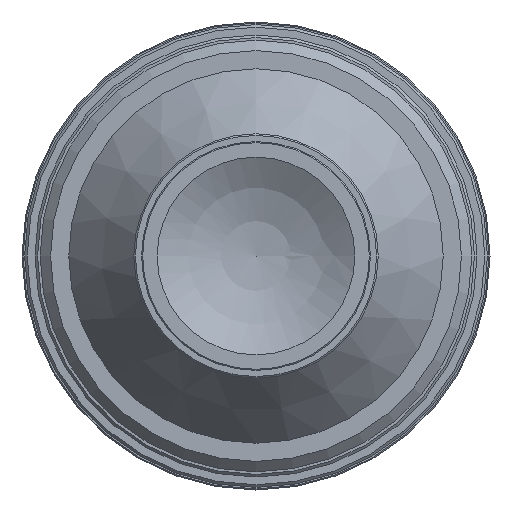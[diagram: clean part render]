
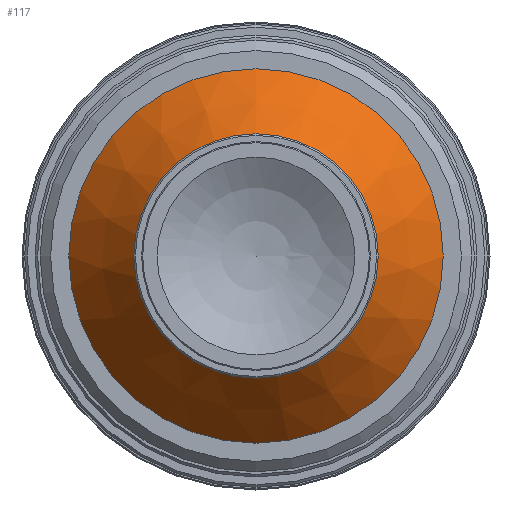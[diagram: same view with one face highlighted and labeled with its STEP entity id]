
A CAD part, left-side view. The second image highlights one B-rep face of the part: STEP entity #117.
In plain terms, the highlighted conical face has half-angle 38.173 degrees and reference radius 36 mm.
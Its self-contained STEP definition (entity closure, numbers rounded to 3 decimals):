
#92=CONICAL_SURFACE('',#513,36.,38.173);
#117=ADVANCED_FACE('',(#192,#193),#92,.T.);
#192=FACE_BOUND('',#258,.T.);
#193=FACE_BOUND('',#259,.T.);
#258=EDGE_LOOP('',(#330));
#259=EDGE_LOOP('',(#331));
#330=ORIENTED_EDGE('',*,*,#393,.F.);
#331=ORIENTED_EDGE('',*,*,#416,.T.);
#357=VERTEX_POINT('',#696);
#380=VERTEX_POINT('',#764);
#393=EDGE_CURVE('',#357,#357,#429,.T.);
#416=EDGE_CURVE('',#380,#380,#452,.T.);
#429=CIRCLE('',#466,23.5);
#452=CIRCLE('',#511,36.);
#466=AXIS2_PLACEMENT_3D('',#695,#544,#545);
#511=AXIS2_PLACEMENT_3D('',#763,#634,#635);
#513=AXIS2_PLACEMENT_3D('',#766,#638,#639);
#544=DIRECTION('',(-1.,0.,0.));
#545=DIRECTION('',(0.,0.,1.));
#634=DIRECTION('',(-1.,0.,0.));
#635=DIRECTION('',(0.,0.,1.));
#638=DIRECTION('',(1.,0.,0.));
#639=DIRECTION('',(0.,0.,-1.));
#695=CARTESIAN_POINT('',(3340.966,-60.052,0.));
#696=CARTESIAN_POINT('',(3340.966,-60.052,23.5));
#763=CARTESIAN_POINT('',(3356.866,-60.052,0.));
#764=CARTESIAN_POINT('',(3356.866,-60.052,36.));
#766=CARTESIAN_POINT('',(3356.866,-60.052,0.));
